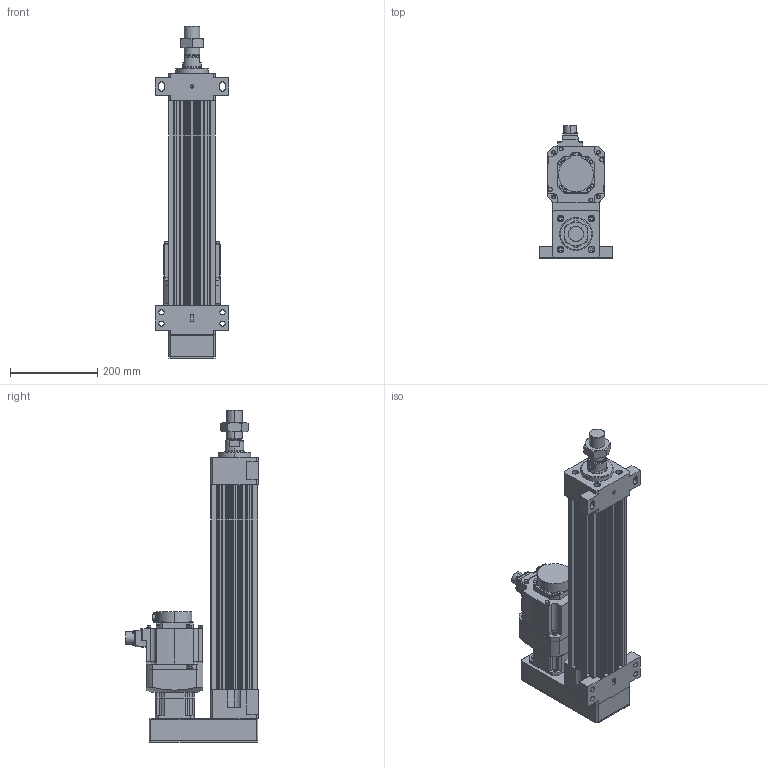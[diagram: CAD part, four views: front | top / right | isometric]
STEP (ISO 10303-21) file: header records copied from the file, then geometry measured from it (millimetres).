
FILE_DESCRIPTION (( 'STEP AP203' ), '1' );
FILE_NAME ('HES110NS(HS)-P300-W010G00-M-FFB.STEP', '2023-01-26T08:55:59', ( 'tms' ), ( '' ), 'SwSTEP 2.0', 'SolidWorks 2013', '' );
FILE_SCHEMA (( 'CONFIG_CONTROL_DESIGN' ));
Length unit declared in the file: millimetre
Products named in the file (8): AB0901; AB090-003[HG-SR102B]; M36X1.5P; P0401301004; HES110NS(HS)-P300-W010G00-M-FFB; HES110 ROD M ST300; HG-SR102; HES110-P300-G090-FFB
Assembly tree (7 placements, depth 3):
  HES110NS(HS)-P300-W010G00-M-FFB
    HES110-P300-G090-FFB
    AB090-003[HG-SR102B]
      AB0901
      P0401301004
    HG-SR102
    HES110 ROD M ST300
    M36X1.5P
Bounding box: 170 x 304.99 x 763 mm (x, y, z)
Volume: 7474720.8 mm3; surface area: 931981.4 mm2
Topology: 4 solids, 11 shells, 1083 faces, 2775 edges, 1806 vertices
Faces by surface type: cylinder 501, plane 500, cone 70, bspline 8, torus 4
Entity records: 34904 total; most frequent: CARTESIAN_POINT 6854, DIRECTION 5982, ORIENTED_EDGE 5502, EDGE_CURVE 2761, AXIS2_PLACEMENT_3D 2205, VERTEX_POINT 1806, VECTOR 1572, LINE 1572
